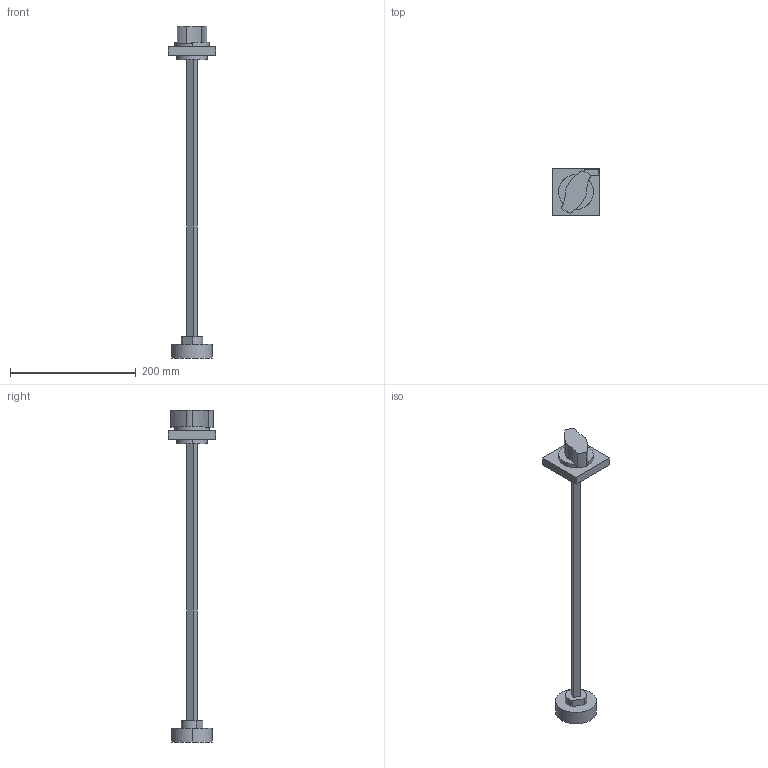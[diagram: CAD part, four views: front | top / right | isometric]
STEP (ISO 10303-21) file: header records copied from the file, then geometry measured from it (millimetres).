
FILE_DESCRIPTION((''),'2;1');
FILE_NAME('SB105626_3D-SIMPLIFIED_ASM','2013-08-23T',('Nico'),(''),'PRO/ENGINEER BY PARAMETRIC TECHNOLOGY CORPORATION, 2010480','PRO/ENGINEER BY PARAMETRIC TECHNOLOGY CORPORATION, 2010480','');
FILE_SCHEMA(('CONFIG_CONTROL_DESIGN'));
Length unit declared in the file: millimetre
Products named in the file (5): PIECE_04; PIECE_03; PIECE_02; PIECE_01; SB105626_3D-SIMPLIFIED_ASM
Assembly tree (4 placements, depth 2):
  SB105626_3D-SIMPLIFIED_ASM
    PIECE_04
    PIECE_03
    PIECE_02
    PIECE_01
Bounding box: 75 x 75 x 527.53 mm (x, y, z)
Volume: 297856 mm3; surface area: 63102.2 mm2
Topology: 4 solids, 4 shells, 50 faces, 114 edges, 76 vertices
Faces by surface type: plane 34, cylinder 16
Entity records: 1547 total; most frequent: DIRECTION 272, CARTESIAN_POINT 249, ORIENTED_EDGE 228, EDGE_CURVE 114, AXIS2_PLACEMENT_3D 99, VERTEX_POINT 76, VECTOR 74, LINE 74
